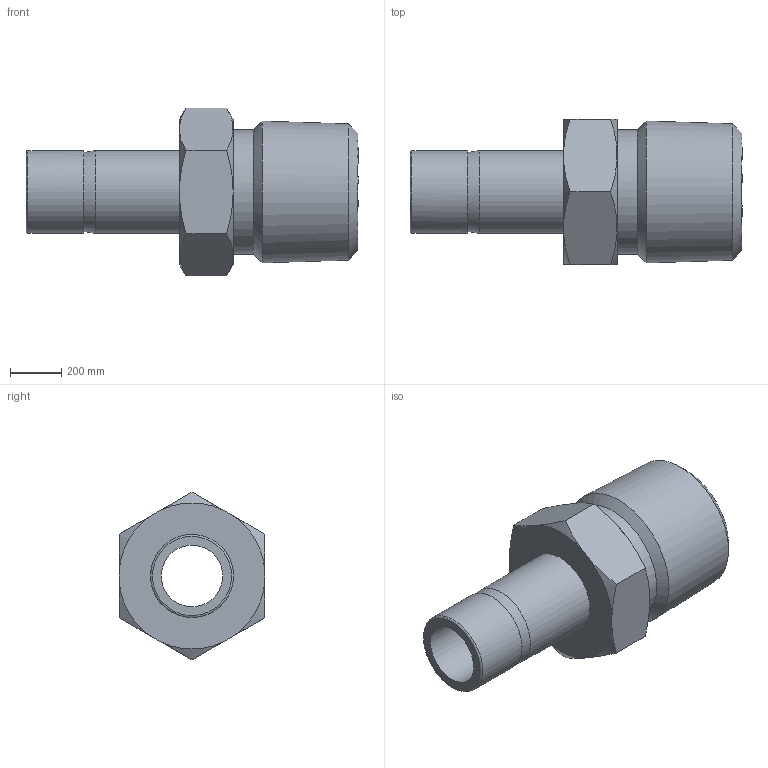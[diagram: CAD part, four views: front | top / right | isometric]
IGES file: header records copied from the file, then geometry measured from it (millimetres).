
Global section: file name: SMA-8-8N; native system: Autodesk Inventor 2016; preprocessor: unknown; author: DESIGNPC2; date: 20151221.103023; units: millimetre
Bounding box: 1290.32 x 564.51 x 651.85 mm (x, y, z)
Volume: 153642321.6 mm3; surface area: 3248197.5 mm2
Topology: 1 solids, 1 shells, 28 faces, 79 edges, 56 vertices
Faces by surface type: bspline 28
